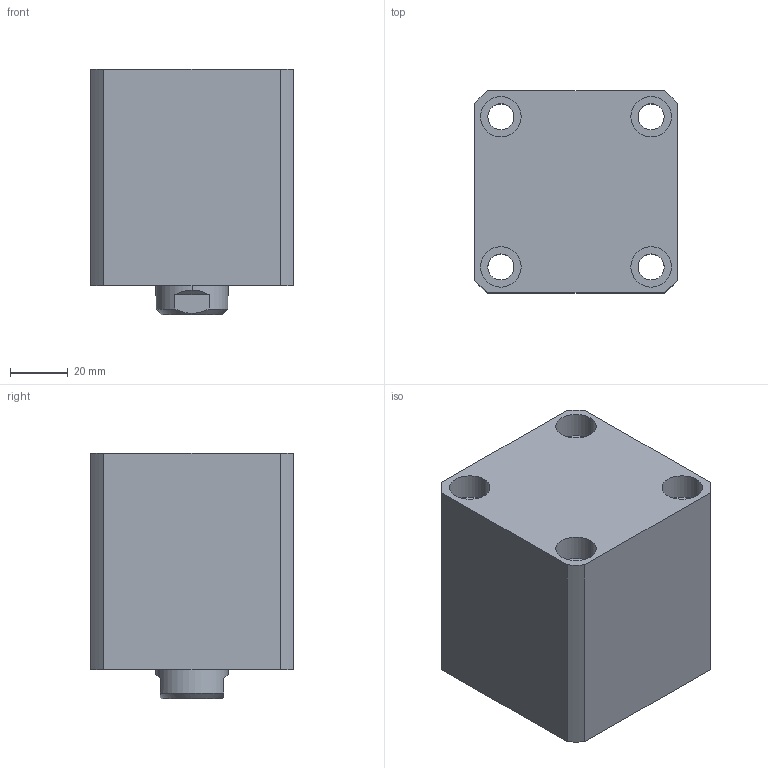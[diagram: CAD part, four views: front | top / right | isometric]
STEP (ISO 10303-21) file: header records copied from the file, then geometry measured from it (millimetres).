
FILE_DESCRIPTION (( 'STEP AP214' ), '1' );
FILE_NAME ('chtb-sd40x20n_asm.STEP', '2018-06-07T08:28:33', ( 'Windows' ), ( 'Microsoft' ), 'SwSTEP 2.0', 'SolidWorks 2015', '' );
FILE_SCHEMA (( 'AUTOMOTIVE_DESIGN' ));
Length unit declared in the file: millimetre
Products named in the file (4): CHTB-SD40X20NHSG; CHTB-SD40X20NBT; CHTB-SD40QG; chtb-sd40x20n_asm
Assembly tree (3 placements, depth 2):
  chtb-sd40x20n_asm
    CHTB-SD40QG
    CHTB-SD40X20NBT
    CHTB-SD40X20NHSG
Bounding box: 70 x 70 x 85 mm (x, y, z)
Volume: 316733.4 mm3; surface area: 70598.1 mm2
Topology: 3 solids, 3 shells, 157 faces, 401 edges, 266 vertices
Faces by surface type: cylinder 80, plane 36, bspline 14, torus 14, cone 13
Entity records: 9977 total; most frequent: CARTESIAN_POINT 6053, ORIENTED_EDGE 790, DIRECTION 768, EDGE_CURVE 395, AXIS2_PLACEMENT_3D 328, VERTEX_POINT 266, EDGE_LOOP 193, CIRCLE 179
